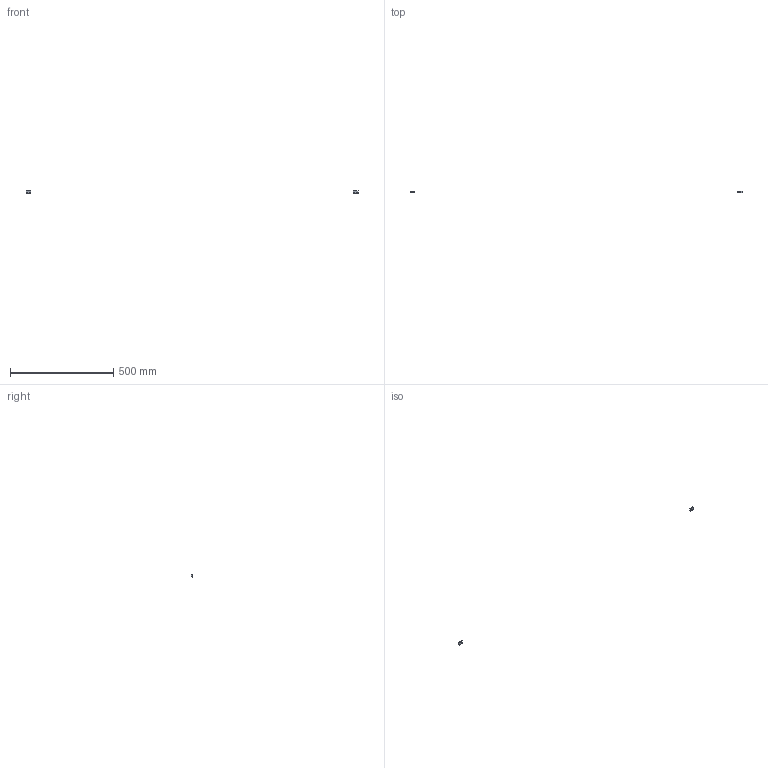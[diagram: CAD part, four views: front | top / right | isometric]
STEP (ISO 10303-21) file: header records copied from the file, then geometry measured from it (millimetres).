
FILE_DESCRIPTION(/* description */ (''),/* implementation_level */ '2;1');
FILE_NAME(/* name */ '4.frame-door#4.8#la-dsp-1',/* time_stamp */ '2014-12-01T20:13:11+01:00',/* author */ (''),/* organization */ (''),/* preprocessor_version */ 'ST-DEVELOPER v14',/* originating_system */ '',/* authorisation */ '');
FILE_SCHEMA (('AUTOMOTIVE_DESIGN'));
Length unit declared in the file: millimetre
Products named in the file (1): Document
Bounding box: 1610.74 x 6 x 14 mm (x, y, z)
Volume: 2826.6 mm3; surface area: 2150.7 mm2
Topology: 2 solids, 2 shells, 32 faces, 84 edges, 56 vertices
Faces by surface type: plane 16, bspline 16
Entity records: 2047 total; most frequent: CARTESIAN_POINT 910, B_SPLINE_CURVE_WITH_KNOTS 204, ORIENTED_EDGE 168, PCURVE 168, DEFINITIONAL_REPRESENTATION 168, SURFACE_CURVE 84, EDGE_CURVE 84, VERTEX_POINT 56
